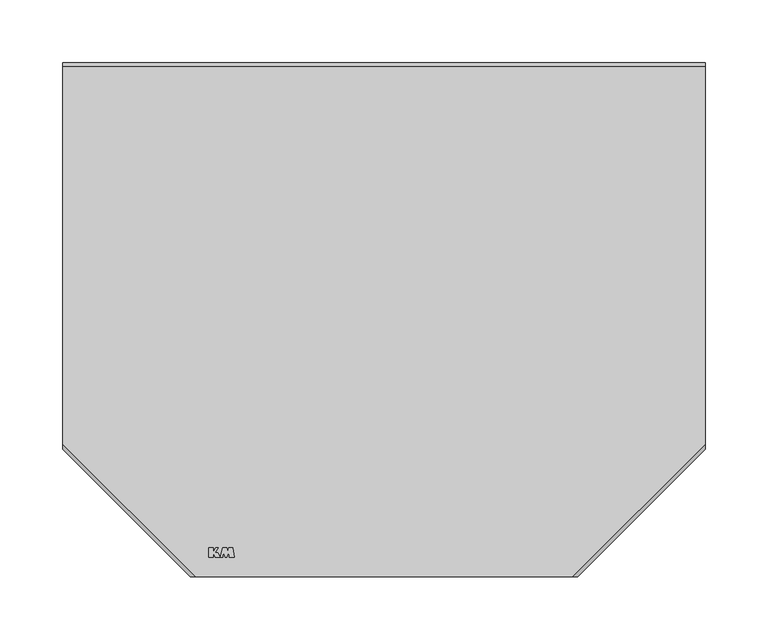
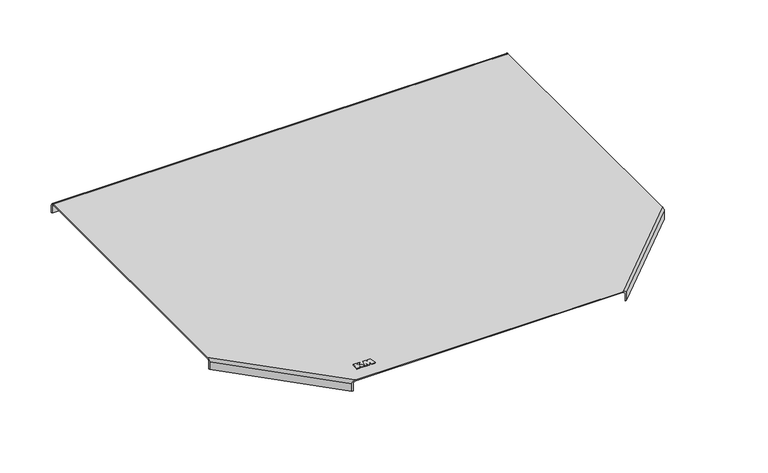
"""IFC4 building model written with IfcOpenShell, lengths in millimetres: cable carrier fitting geometry, КМ Профиль Крышка Т-отвода KTD : Крышка Т-отвода KTD."""

from ifc_helpers import new_model, si_unit, frame, origin, place, context, project, spatial, polyline, circle_curve, ellipse_curve, outline, extrude, source, transform, mapped, element, save
from ifc_brep_helpers import plane_surface, cylinder_surface, revolved_surface, advanced_brep


def cable_carrier_fitting_89958acc(model_context):
    return source(origin(), model_context, "Body", "SolidModel", [
        extrude(outline(polyline([(-139.2388781, -231.986157), (-135.7316192, -231.986157), (-135.7316192, -235.564509), (-133.8289757, -231.986157), (-131.703011, -231.986157), (-134.1694955, -235.5086619), (-131.9277444, -236.194034), (-130.0604353, -239.737421), (-133.9588467, -239.737421), (-135.6630512, -236.5720802), (-135.6630512, -239.737421), (-139.2388781, -239.737421), (-139.2388781, -231.986157)])), frame((0.0, 0.0, 3.0), z_axis=(0.0, 0.0, 1.0), x_axis=(1.0, 0.0, 0.0)), (0.0, 0.0, 1.0), 0.8),
        extrude(outline(polyline([(-127.9962759, -239.737421), (-129.8943395, -239.737421), (-128.0740589, -231.9647569), (-125.0433304, -231.9647569), (-124.2768297, -235.0390232), (-123.2555223, -231.9623682), (-120.0615674, -231.9623682), (-118.8700699, -239.7429915), (-122.7725105, -239.7429915), (-123.2500032, -235.0541919), (-124.7300717, -239.7434681), (-126.2045824, -239.7434681), (-127.6126012, -235.0696135), (-127.9962759, -239.737421)])), frame((0.0, 0.0, 3.0), z_axis=(0.0, 0.0, 1.0), x_axis=(1.0, 0.0, 0.0)), (0.0, 0.0, 1.0), 0.8),
        advanced_brep(
        [(-255.0, -149.6715729, 3.0), (-255.0, 150.0, 3.0), (-255.0, 153.0, 0.0), (-255.0, 153.0, -9.0), (-255.0, 152.0, -9.0), (-255.0, 152.0, 0.0), (-255.0, 150.0, 2.0), (-255.0, -149.6715729, 2.0), (-255.0, -152.5, 0.0), (-255.0, -152.5, -9.0), (-255.0, -153.9142136, -9.0), (-255.0, -153.9142136, 0.0), (149.6715729, -255.0, 3.0), (-149.6715729, -255.0, 3.0), (-153.9142136, -255.0, 0.0), (-153.9142136, -255.0, -9.0), (-152.5, -255.0, -9.0), (-152.5, -255.0, 0.0), (-149.6715729, -255.0, 2.0), (149.6715729, -255.0, 2.0), (152.5, -255.0, 0.0), (152.5, -255.0, -9.0), (153.9142136, -255.0, -9.0), (153.9142136, -255.0, 0.0), (255.0, 150.0, 3.0), (255.0, -149.6715729, 3.0), (255.0, -153.9142136, 0.0), (255.0, -153.9142136, -9.0), (255.0, -152.5, -9.0), (255.0, -152.5, 0.0), (255.0, -149.6715729, 2.0), (255.0, 150.0, 2.0), (255.0, 152.0, 0.0), (255.0, 152.0, -9.0), (255.0, 153.0, -9.0), (255.0, 153.0, 0.0)],
        [
            (0, 1),
            (1, 2, circle_curve(frame((-255.0, 150.0, 0.0), z_axis=(-1.0, 0.0, 0.0), x_axis=(0.0, -1.0, 0.0)), 3.0)),
            (2, 3),
            (3, 4),
            (4, 5),
            (5, 6, circle_curve(frame((-255.0, 150.0, 0.0), z_axis=(1.0, 0.0, 0.0), x_axis=(0.0, -1.0, 0.0)), 2.0)),
            (6, 7),
            (7, 8, ellipse_curve(frame((-255.0, -149.6715729, 0.0), z_axis=(1.0, 0.0, 0.0), x_axis=(0.0, -1.0, 0.0)), 2.8284271, 2.0)),
            (8, 9),
            (9, 10),
            (10, 11),
            (11, 0, ellipse_curve(frame((-255.0, -149.6715729, 0.0), z_axis=(-1.0, 0.0, 0.0), x_axis=(0.0, 1.0, 0.0)), 4.2426407, 3.0)),
            (12, 13),
            (13, 14, ellipse_curve(frame((-149.6715729, -255.0, 0.0), z_axis=(0.0, -1.0, 0.0), x_axis=(-1.0, 0.0, 0.0)), 4.2426407, 3.0)),
            (14, 15),
            (15, 16),
            (16, 17),
            (17, 18, ellipse_curve(frame((-149.6715729, -255.0, 0.0), z_axis=(0.0, 1.0, 0.0), x_axis=(1.0, 0.0, 0.0)), 2.8284271, 2.0)),
            (18, 19),
            (19, 20, ellipse_curve(frame((149.6715729, -255.0, 0.0), z_axis=(0.0, 1.0, 0.0), x_axis=(1.0, 0.0, 0.0)), 2.8284271, 2.0)),
            (20, 21),
            (21, 22),
            (22, 23),
            (23, 12, ellipse_curve(frame((149.6715729, -255.0, 0.0), z_axis=(0.0, -1.0, 0.0), x_axis=(-1.0, 0.0, 0.0)), 4.2426407, 3.0)),
            (24, 25),
            (25, 26, ellipse_curve(frame((255.0, -149.6715729, 0.0), z_axis=(1.0, 0.0, 0.0), x_axis=(0.0, -1.0, 0.0)), 4.2426407, 3.0)),
            (26, 27),
            (27, 28),
            (28, 29),
            (29, 30, ellipse_curve(frame((255.0, -149.6715729, 0.0), z_axis=(-1.0, 0.0, 0.0), x_axis=(0.0, 1.0, 0.0)), 2.8284271, 2.0)),
            (30, 31),
            (31, 32, circle_curve(frame((255.0, 150.0, 0.0), z_axis=(-1.0, 0.0, 0.0), x_axis=(0.0, -1.0, 0.0)), 2.0)),
            (32, 33),
            (33, 34),
            (34, 35),
            (35, 24, circle_curve(frame((255.0, 150.0, 0.0), z_axis=(1.0, 0.0, 0.0), x_axis=(0.0, -1.0, 0.0)), 3.0)),
            (12, 25),
            (24, 1),
            (0, 13),
            (30, 19),
            (18, 7),
            (6, 31),
            (29, 20),
            (28, 21),
            (22, 27),
            (26, 23),
            (5, 32),
            (4, 33),
            (34, 3),
            (2, 35),
            (17, 8),
            (16, 9),
            (10, 15),
            (14, 11),
        ],
        [
            plane_surface(frame((-255.0, -162.5, 3.0), z_axis=(-1.0, 0.0, 0.0), x_axis=(0.0, 0.0, -1.0))),
            plane_surface(frame((162.5, -255.0, 3.0), z_axis=(0.0, -1.0, 0.0), x_axis=(0.0, 0.0, -1.0))),
            plane_surface(frame((255.0, 162.5, 3.0), z_axis=(1.0, 0.0, 0.0), x_axis=(0.0, 0.0, -1.0))),
            plane_surface(frame((-255.0, -149.6715729, 3.0), z_axis=(0.0, 0.0, 1.0), x_axis=(0.707106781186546, -0.707106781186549, 0.0))),
            plane_surface(frame((-255.0, -149.6715729, 2.0), z_axis=(0.0, 0.0, -1.0), x_axis=(-0.707106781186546, 0.707106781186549, 0.0))),
            revolved_surface(polyline([(254.99999998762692, -146.84314578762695, 0.0), (146.8431457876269, -254.9999999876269, 0.0)]), (149.6715729, -255.0, 0.0), (0.7071067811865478, 0.7071067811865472, 0.0)),
            plane_surface(frame((150.5, -257.0, 0.0), z_axis=(-0.7071067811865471, 0.7071067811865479, 0.0), x_axis=(0.7071067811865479, 0.7071067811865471, 0.0))),
            plane_surface(frame((150.9142136, -258.0, -9.0), z_axis=(0.7071067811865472, -0.7071067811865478, 0.0), x_axis=(0.7071067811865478, 0.7071067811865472, 0.0))),
            cylinder_surface(frame((149.6715729, -255.0, 0.0), z_axis=(-0.7071067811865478, -0.7071067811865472, 0.0), x_axis=(-0.7071067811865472, 0.7071067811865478, 0.0)), 3.0),
            revolved_surface(polyline([(-255.0, 148.0, 0.0), (255.0, 148.0, 0.0)]), (255.0, 150.0, 0.0), (-1.0, 0.0, 0.0)),
            plane_surface(frame((257.0, 152.0, 0.0), z_axis=(0.0, -1.0, 0.0), x_axis=(-1.0, 0.0, 0.0))),
            plane_surface(frame((258.0, 153.0, -9.0), z_axis=(0.0, 1.0, 0.0), x_axis=(-1.0, 0.0, 0.0))),
            cylinder_surface(frame((255.0, 150.0, 0.0), z_axis=(1.0, 0.0, 0.0), x_axis=(0.0, -1.0, 0.0)), 3.0),
            revolved_surface(polyline([(-146.84314578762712, -254.99999998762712, 0.0), (-254.9999999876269, -146.84314578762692, 0.0)]), (-255.0, -149.6715729, 0.0), (0.707106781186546, -0.707106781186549, 0.0)),
            plane_surface(frame((-257.0, -150.5, 0.0), z_axis=(0.7071067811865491, 0.7071067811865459, 0.0), x_axis=(0.7071067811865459, -0.7071067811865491, 0.0))),
            plane_surface(frame((-258.0, -150.9142136, -9.0), z_axis=(-0.7071067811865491, -0.7071067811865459, 0.0), x_axis=(0.7071067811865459, -0.7071067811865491, 0.0))),
            cylinder_surface(frame((-255.0, -149.6715729, 0.0), z_axis=(-0.707106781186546, 0.707106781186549, 0.0), x_axis=(0.707106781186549, 0.707106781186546, 0.0)), 3.0),
            plane_surface(frame((-150.5, -257.0, -9.0), z_axis=(0.0, 0.0, -1.0), x_axis=(1.0, 0.0, 0.0))),
        ],
        [
            (0, [[1, 2, 3, 4, 5, 6, 7, 8, 9, 10, 11, 12]]),
            (1, [[13, 14, 15, 16, 17, 18, 19, 20, 21, 22, 23, 24]]),
            (2, [[25, 26, 27, 28, 29, 30, 31, 32, 33, 34, 35, 36]]),
            (3, [[37, -25, 38, -1, 39, -13]]),
            (4, [[40, -19, 41, -7, 42, -31]]),
            (5, [[-40, -30, 43, -20]]),
            (6, [[-43, -29, 44, -21]]),
            (7, [[45, -27, 46, -23]]),
            (8, [[-37, -24, -46, -26]]),
            (9, [[-42, -6, 47, -32]]),
            (10, [[-47, -5, 48, -33]]),
            (11, [[49, -3, 50, -35]]),
            (12, [[-38, -36, -50, -2]]),
            (13, [[-41, -18, 51, -8]]),
            (14, [[-51, -17, 52, -9]]),
            (15, [[53, -15, 54, -11]]),
            (16, [[-39, -12, -54, -14]]),
            (17, [[-45, -22, -44, -28]]),
            (17, [[-49, -34, -48, -4]]),
            (17, [[-53, -10, -52, -16]]),
        ],
    ),
    ])


if __name__ == "__main__":
    model = new_model("IFC4")
    model_context = context("Model", 3, world=origin())
    ifc_project = project(units=[si_unit("LENGTHUNIT", "METRE", prefix="MILLI")], contexts=[model_context])
    site = spatial("IfcSite", under=ifc_project)
    building = spatial("IfcBuilding", under=site)
    placement = place(None, origin())
    cable_carrier_fitting_shape = cable_carrier_fitting_89958acc(model_context)
    element("IfcCableCarrierFitting", 1, ObjectType="КМ Профиль Крышка Т-отвода KTD : Крышка Т-отвода KTD", at=placement, inside=building, context=model_context, shape_type="MappedRepresentation", body=[
        mapped(cable_carrier_fitting_shape, transform((0.0, 0.0, 0.0), x_axis=(1.0, 0.0, 0.0), y_axis=(0.0, 1.0, 0.0), z_axis=(0.0, 0.0, 1.0))),
    ])
    save(model, "model.ifc")
